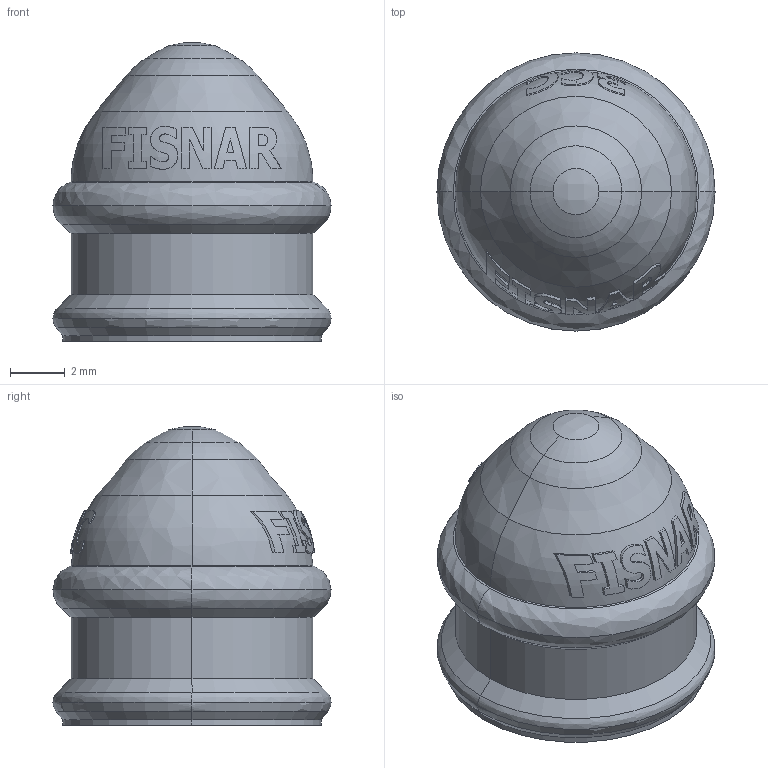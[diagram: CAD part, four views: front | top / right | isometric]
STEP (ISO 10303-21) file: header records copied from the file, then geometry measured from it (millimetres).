
FILE_DESCRIPTION (( 'STEP AP214' ), '1' );
FILE_NAME ('8001510_CUS.STEP', '2022-07-05T14:58:37', ( '' ), ( '' ), 'SwSTEP 2.0', 'SolidWorks 2020', '' );
FILE_SCHEMA (( 'AUTOMOTIVE_DESIGN' ));
Length unit declared in the file: millimetre
Products named in the file (1): 8001510_CUS
Bounding box: 10.12 x 10.12 x 10.86 mm (x, y, z)
Volume: 351.6 mm3; surface area: 574.2 mm2
Topology: 10 solids, 10 shells, 181 faces, 445 edges, 286 vertices
Faces by surface type: plane 70, bspline 57, torus 32, cone 14, cylinder 8
Entity records: 7303 total; most frequent: CARTESIAN_POINT 3186, ORIENTED_EDGE 890, DIRECTION 657, EDGE_CURVE 445, VERTEX_POINT 286, AXIS2_PLACEMENT_3D 261, EDGE_LOOP 187, FACE_OUTER_BOUND 181
